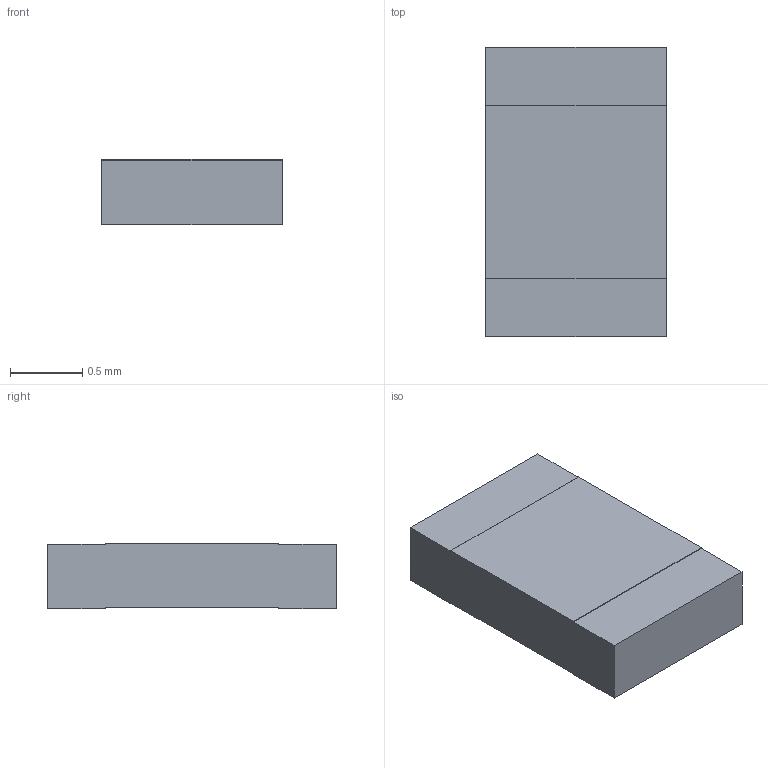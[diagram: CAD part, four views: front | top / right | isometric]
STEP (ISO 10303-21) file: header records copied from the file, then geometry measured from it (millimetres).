
FILE_DESCRIPTION(/* description */ (''),/* implementation_level */ '2;1');
FILE_NAME(/* name */ '\\wsse03\home\msaalfrank\Konstruktion\tknuschke\0805.stp',/* time_stamp */ '2020-11-09T12:46:50+01:00',/* author */ ('msaalfrank'),/* organization */ (''),/* preprocessor_version */ 'ST-DEVELOPER v16.5',/* originating_system */ 'Autodesk Inventor 2017',/* authorisation */ '');
FILE_SCHEMA (('AUTOMOTIVE_DESIGN { 1 0 10303 214 3 1 1 }'));
Length unit declared in the file: millimetre
Products named in the file (1): 0805
Bounding box: 1.25 x 2 x 0.45 mm (x, y, z)
Volume: 1.1 mm3; surface area: 7.9 mm2
Topology: 1 solids, 1 shells, 14 faces, 36 edges, 24 vertices
Faces by surface type: plane 14
Entity records: 481 total; most frequent: CARTESIAN_POINT 75, ORIENTED_EDGE 72, DIRECTION 66, LINE 36, VECTOR 36, EDGE_CURVE 36, VERTEX_POINT 24, AXIS2_PLACEMENT_3D 15
